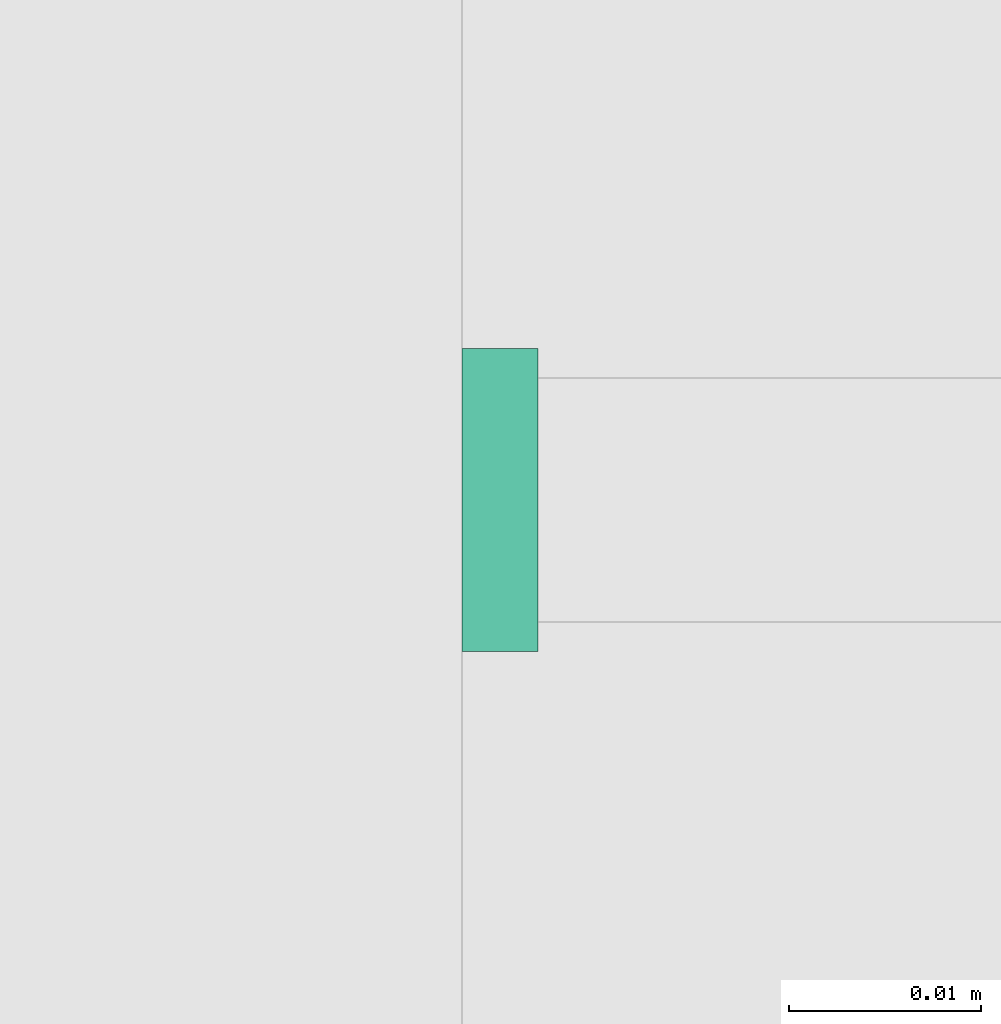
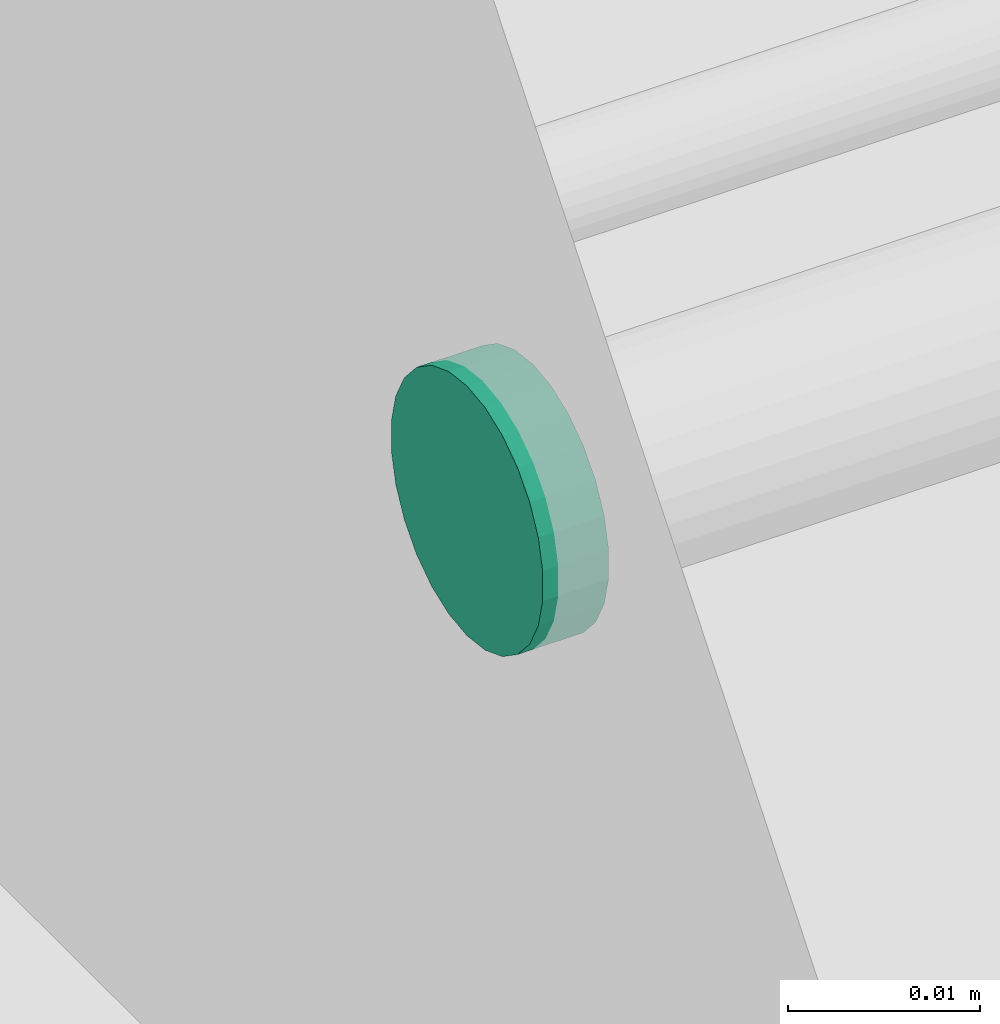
# One storey, part 14 of 24: 1 flow fitting.
"""IFC2X3 building model written with IfcOpenShell, lengths in millimetres."""

from ifc_helpers import new_model, entity, si_unit, converted_unit, derived_unit, direction, frame, origin, origin_2d_with_axis, place, context, subcontext, project, spatial, circle, extrude, source, transform, mapped, material, type_object, type_shapes, element, save


model = new_model("IFC2X3")

# Units and contexts
model_context = context("Model", 3, precision=0.01, world=origin(), true_north=direction((6.123031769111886e-17, 1.0)))
body_context = subcontext(model_context, "Body", "Model", "MODEL_VIEW")
ifc_project = project(units=[si_unit("LENGTHUNIT", "METRE", prefix="MILLI"), si_unit("AREAUNIT", "SQUARE_METRE"), si_unit("VOLUMEUNIT", "CUBIC_METRE"), converted_unit("PLANEANGLEUNIT", "DEGREE", entity("IfcRatioMeasure", 0.017453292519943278), si_unit("PLANEANGLEUNIT", "RADIAN"), dimensions=[0, 0, 0, 0, 0, 0, 0]), si_unit("MASSUNIT", "GRAM", prefix="KILO"), derived_unit("MASSDENSITYUNIT", [(si_unit("MASSUNIT", "GRAM", prefix="KILO"), 1), (si_unit("LENGTHUNIT", "METRE"), -3)]), derived_unit("MOMENTOFINERTIAUNIT", [(si_unit("LENGTHUNIT", "METRE"), 4)]), si_unit("TIMEUNIT", "SECOND"), si_unit("FREQUENCYUNIT", "HERTZ"), si_unit("THERMODYNAMICTEMPERATUREUNIT", "DEGREE_CELSIUS"), derived_unit("THERMALTRANSMITTANCEUNIT", [(si_unit("MASSUNIT", "GRAM", prefix="KILO"), 1), (si_unit("THERMODYNAMICTEMPERATUREUNIT", "KELVIN"), -1), (si_unit("TIMEUNIT", "SECOND"), -3)]), derived_unit("VOLUMETRICFLOWRATEUNIT", [(si_unit("LENGTHUNIT", "METRE"), 3), (si_unit("TIMEUNIT", "SECOND"), -1)]), derived_unit("MASSFLOWRATEUNIT", [(si_unit("MASSUNIT", "GRAM", prefix="KILO"), 1), (si_unit("TIMEUNIT", "SECOND"), -1)]), derived_unit("ROTATIONALFREQUENCYUNIT", [(si_unit("TIMEUNIT", "SECOND"), -1)]), si_unit("ELECTRICCURRENTUNIT", "AMPERE"), si_unit("ELECTRICVOLTAGEUNIT", "VOLT"), si_unit("POWERUNIT", "WATT"), si_unit("FORCEUNIT", "NEWTON", prefix="KILO"), si_unit("ILLUMINANCEUNIT", "LUX"), si_unit("LUMINOUSFLUXUNIT", "LUMEN"), si_unit("LUMINOUSINTENSITYUNIT", "CANDELA"), derived_unit("USERDEFINED", [(si_unit("MASSUNIT", "GRAM", prefix="KILO"), -1), (si_unit("LENGTHUNIT", "METRE"), -2), (si_unit("TIMEUNIT", "SECOND"), 3), (si_unit("LUMINOUSFLUXUNIT", "LUMEN"), 1)]), derived_unit("SOUNDPOWERUNIT", [(si_unit("MASSUNIT", "GRAM", prefix="KILO"), 1), (si_unit("LENGTHUNIT", "METRE"), 2), (si_unit("TIMEUNIT", "SECOND"), -3)]), derived_unit("SOUNDPRESSUREUNIT", [(si_unit("MASSUNIT", "GRAM", prefix="KILO"), 1), (si_unit("LENGTHUNIT", "METRE"), -1), (si_unit("TIMEUNIT", "SECOND"), -2)]), derived_unit("LINEARVELOCITYUNIT", [(si_unit("LENGTHUNIT", "METRE"), 1), (si_unit("TIMEUNIT", "SECOND"), -1)]), si_unit("PRESSUREUNIT", "PASCAL"), derived_unit("USERDEFINED", [(si_unit("LENGTHUNIT", "METRE"), -2), (si_unit("MASSUNIT", "GRAM", prefix="KILO"), 1), (si_unit("TIMEUNIT", "SECOND"), -2)]), derived_unit("LINEARFORCEUNIT", [(si_unit("MASSUNIT", "GRAM", prefix="KILO"), 1), (si_unit("LENGTHUNIT", "METRE"), 1), (si_unit("TIMEUNIT", "SECOND"), -2), (si_unit("LENGTHUNIT", "METRE"), -1)]), derived_unit("PLANARFORCEUNIT", [(si_unit("MASSUNIT", "GRAM", prefix="KILO"), 1), (si_unit("LENGTHUNIT", "METRE"), 1), (si_unit("TIMEUNIT", "SECOND"), -2), (si_unit("LENGTHUNIT", "METRE"), -2)])], contexts=[model_context])

# Site, building, storey
site_placement = place(None, origin())
site = spatial("IfcSite", under=ifc_project, at=site_placement, Name="Default", CompositionType="ELEMENT")
building_placement = place(site_placement, origin())
building = spatial("IfcBuilding", under=site, at=building_placement, CompositionType="ELEMENT")
storey_placement = place(building_placement, origin())
storey = spatial("IfcBuildingStorey", under=building, at=storey_placement, Name="Level 1", CompositionType="ELEMENT", Elevation=0.0)

# Flow fitting
ifc_material = material(Name="<Unnamed>")
pipe_fitting_type = type_object("IfcPipeFittingType", Name="M_Transition - Generic:Standard:Standard : M_Transition - Generic:Standard", PredefinedType="NOTDEFINED", material=ifc_material)
shared_shape = source(origin(), body_context, "Body", "SweptSolid", [
    extrude(circle(Radius=7.937500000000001, at=origin_2d_with_axis()), frame((-1239.8554096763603, 3181.41352676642, 2710.0), z_axis=(1.0, 0.0, 0.0), x_axis=(0.0, 0.0, 1.0)), (0.0, 0.0, 1.0), 3.96874999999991),
])
type_shapes(pipe_fitting_type, [shared_shape])
flow_fitting_placement = place(storey_placement, origin())
element("IfcFlowFitting", 1, at=flow_fitting_placement, inside=storey, type_object=pipe_fitting_type, material=ifc_material, Name="M_Transition - Generic:Standard:Standard : M_Transition - Generic:Standard:Standard:Standard : M_Transition - Generic:Standard : M_Transition - Generic:Standard:Standard : M_Transition - Generic:Standard", ObjectType="M_Transition - Generic:Standard:Standard : M_Transition - Generic:Standard:Standard:Standard : M_Transition - Generic:Standard : M_Transition - Generic:Standard:Standard : M_Transition - Generic:Standard", context=body_context, shape_type="MappedRepresentation", body=[
    mapped(shared_shape, transform((0.0, 0.0, 0.0), scale=1.0)),
])

save(model, "model.ifc")
